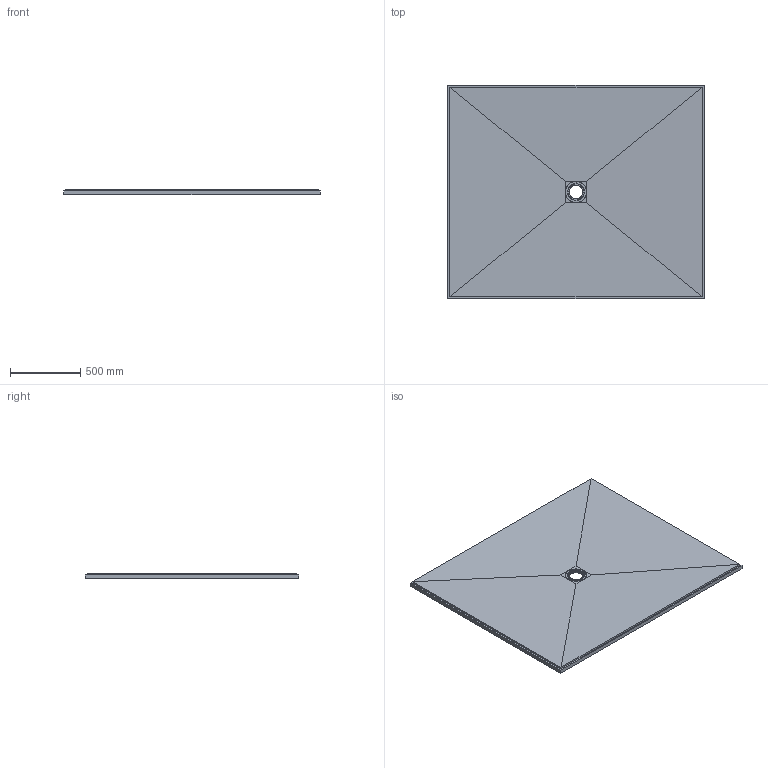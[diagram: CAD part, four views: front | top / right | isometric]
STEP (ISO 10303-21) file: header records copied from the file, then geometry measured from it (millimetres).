
FILE_DESCRIPTION(/* description */ ('Fertigteil'),/* implementation_level */ '2;1');
FILE_NAME(/* name */ 'C:\Users\fuser-vault-job\AppData\Local\Temp\MuM_zyutop2x.kvt\D-000002002.iam_.step',/* time_stamp */ '2022-07-14T09:40:14+02:00',/* author */ ('ds'),/* organization */ (''),/* preprocessor_version */ 'ST-DEVELOPER v18.1',/* originating_system */ 'Autodesk Inventor 2020',/* authorisation */ '');
FILE_SCHEMA (('AUTOMOTIVE_DESIGN { 1 0 10303 214 3 1 1 }'));
Products named in the file (3): 073740057; 073740057_1; DD0000003
Assembly tree (2 placements, depth 2):
  073740057
    073740057_1
    DD0000003
Bounding box: 1828 x 1524 x 40 mm (x, y, z)
Volume: 92757596.9 mm3; surface area: 5864453.7 mm2
Topology: 2 solids, 2 shells, 743 faces, 2189 edges, 1474 vertices
Faces by surface type: bspline 372, torus 115, cone 78, cylinder 76, plane 68, sphere 34
Full cylindrical faces by diameter (mm): 6 x3, 151 x1
Entity records: 63140 total; most frequent: CARTESIAN_POINT 44892, ORIENTED_EDGE 4322, DIRECTION 3297, EDGE_CURVE 2161, VERTEX_POINT 1456, AXIS2_PLACEMENT_3D 1338, CIRCLE 812, EDGE_LOOP 803
